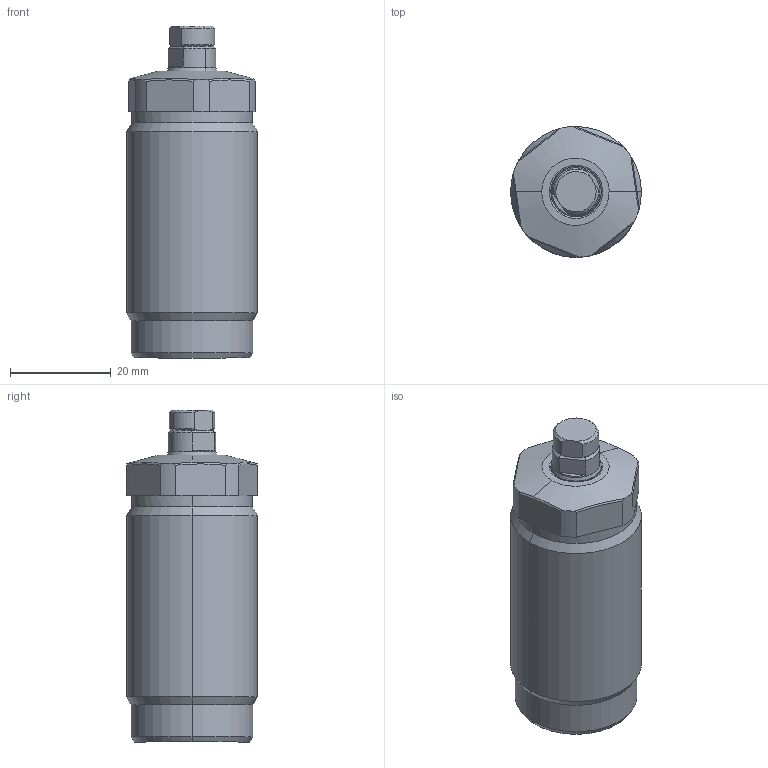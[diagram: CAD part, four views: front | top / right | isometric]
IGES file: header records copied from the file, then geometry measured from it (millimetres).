
Start section: SolidWorks IGES file using analytic representation for surfaces
Global section: file name: F:\CLASP THREADED WORK SUPPORT AND FLANGE IGS MODEL\CLASP THREADED WS IGS\TW09-M260\TWO9-M260.IGS; native system: SolidWorks 2019; preprocessor: SolidWorks 2019; author: ADMIN; date: 200806.085253; units: millimetre
Bounding box: 26 x 26 x 66 mm (x, y, z)
Volume: 28871.7 mm3; surface area: 8070.4 mm2
Topology: 3 solids, 3 shells, 97 faces, 222 edges, 133 vertices
Faces by surface type: revolution 62, plane 29, bspline 6
